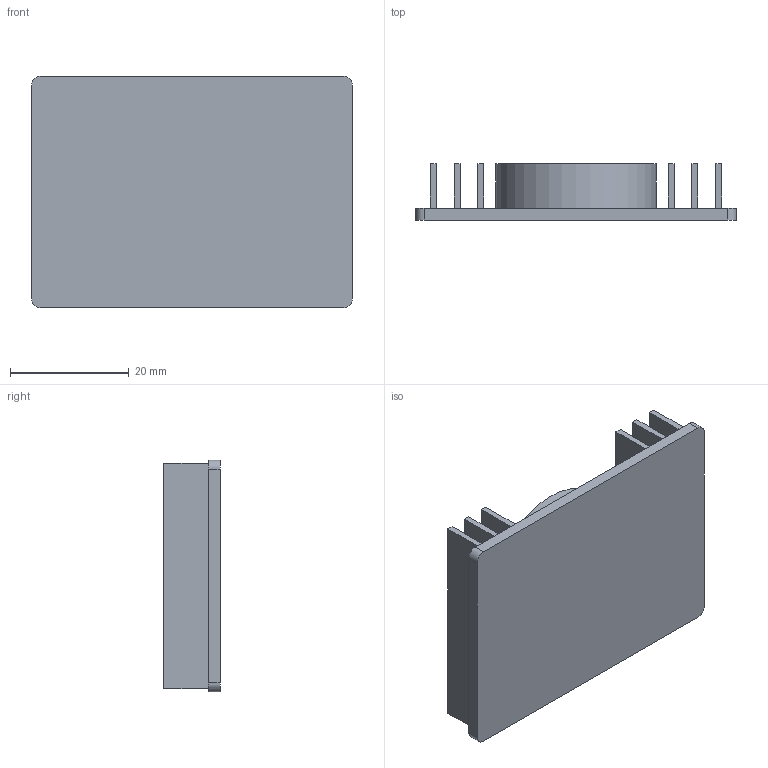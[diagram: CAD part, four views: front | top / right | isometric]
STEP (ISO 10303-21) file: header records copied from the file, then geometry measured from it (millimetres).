
FILE_DESCRIPTION(('Open CASCADE Model'),'2;1');
FILE_NAME('Open CASCADE Shape Model','2026-11-01T16:34:13',('Author'),( 'Open CASCADE'),'Open CASCADE STEP processor 8.0','build123d', 'Unknown');
FILE_SCHEMA(('AUTOMOTIVE_DESIGN { 1 0 10303 214 1 1 1 1 }'));
Length unit declared in the file: millimetre
Products named in the file (1): SOLID
Bounding box: 54 x 9.5 x 39 mm (x, y, z)
Volume: 8316.5 mm3; surface area: 9812 mm2
Topology: 1 solids, 1 shells, 81 faces, 213 edges, 142 vertices
Faces by surface type: plane 74, cylinder 7
Full cylindrical faces by diameter (mm): 11 x1, 24.8 x1, 27 x1
Entity records: 5195 total; most frequent: CARTESIAN_POINT 1061, DIRECTION 720, ORIENTED_EDGE 426, PCURVE 426, DEFINITIONAL_REPRESENTATION 426, LINE 419, VECTOR 419, EDGE_CURVE 213
